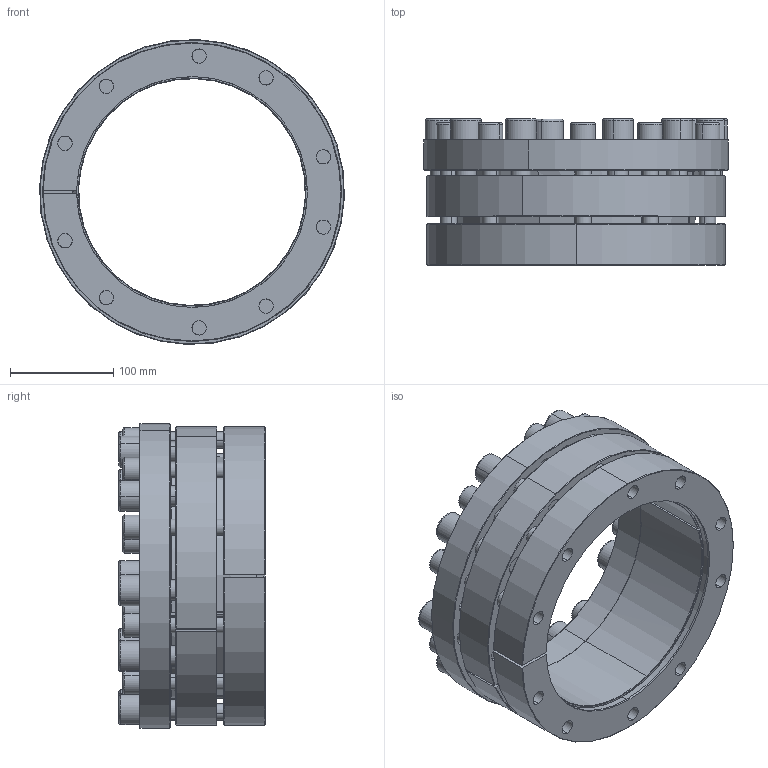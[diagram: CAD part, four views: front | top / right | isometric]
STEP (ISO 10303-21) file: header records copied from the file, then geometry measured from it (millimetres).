
FILE_DESCRIPTION (( 'STEP AP214' ), '1' );
FILE_NAME ('CONEX-P-220x290-P-005.step', '2015-11-30T21:14:00', ( '' ), ( '' ), 'SwSTEP 2.0', 'SolidWorks 2013', '' );
FILE_SCHEMA (( 'AUTOMOTIVE_DESIGN' ));
Length unit declared in the file: millimetre
Products named in the file (1): CONEX-P-220x290-P-005
Bounding box: 295.82 x 142 x 295.82 mm (x, y, z)
Volume: 3326888.8 mm3; surface area: 693644 mm2
Topology: 23 solids, 23 shells, 731 faces, 1687 edges, 1003 vertices
Faces by surface type: plane 321, cylinder 209, cone 119, torus 82
Entity records: 28915 total; most frequent: DIRECTION 3870, CARTESIAN_POINT 3516, ORIENTED_EDGE 3294, EDGE_CURVE 1647, AXIS2_PLACEMENT_3D 1523, VERTEX_POINT 1003, EDGE_LOOP 882, LINE 824
